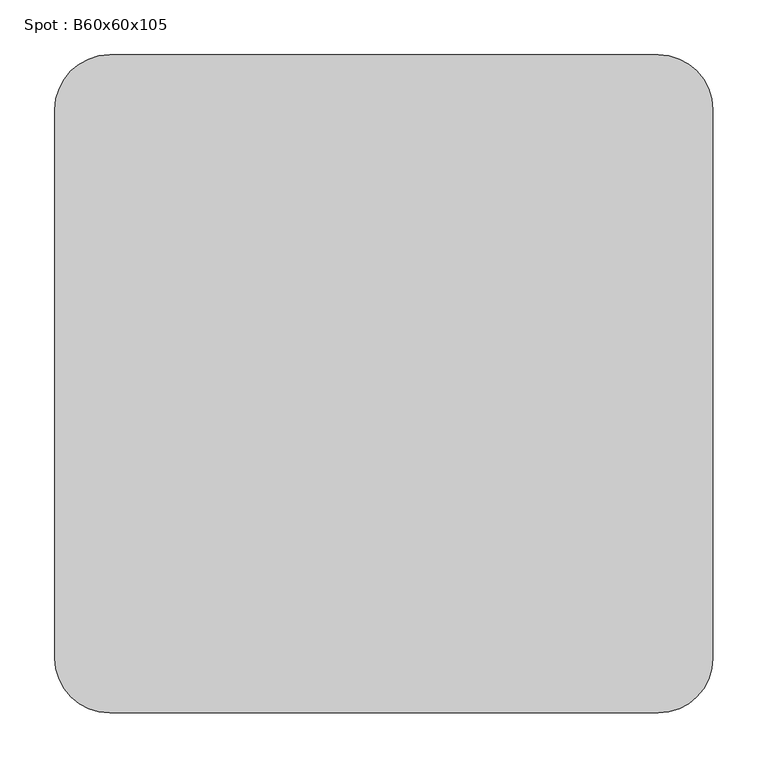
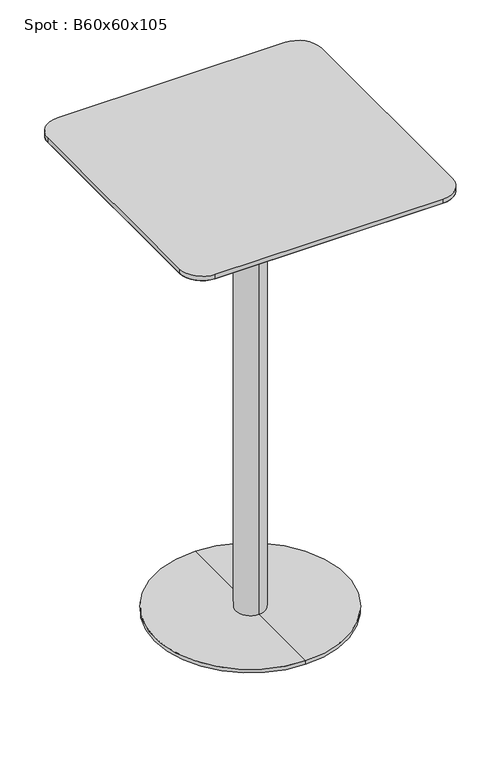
"""IFC4 building model written with IfcOpenShell, lengths in millimetres: furniture geometry, Spot : B60x60x105."""

from ifc_helpers import new_model, si_unit, point, frame, frame_2d, origin, place, context, project, spatial, polyline, circle_curve, trimmed, segment, composite_curve, outline, extrude, source, transform, mapped, element, save
from ifc_brep_helpers import plane_surface, cylinder_surface, revolved_surface, advanced_brep


def spot_b60x60x105_59c6a68b(model_context):
    return source(origin(), model_context, "Body", "SolidModel", [
        advanced_brep(
        [(-250.0, -250.0, 1028.0), (-250.0, 250.0, 1028.0), (250.0, 250.0, 1028.0), (250.0, -250.0, 1028.0), (-300.0, -250.0, 1040.0), (-250.0, -300.0, 1040.0), (250.0, -300.0, 1040.0), (300.0, -250.0, 1040.0), (300.0, 250.0, 1040.0), (250.0, 300.0, 1040.0), (-250.0, 300.0, 1040.0), (-300.0, 250.0, 1040.0)],
        [
            (0, 1),
            (1, 2),
            (2, 3),
            (3, 0),
            (4, 5, circle_curve(frame((-250.0, -250.0, 1040.0), z_axis=(0.0, 0.0, 1.0), x_axis=(0.0, -1.0, 0.0)), 50.0)),
            (5, 6),
            (6, 7, circle_curve(frame((250.0, -250.0, 1040.0), z_axis=(0.0, 0.0, 1.0), x_axis=(1.0, 0.0, 0.0)), 50.0)),
            (7, 8),
            (8, 9, circle_curve(frame((250.0, 250.0, 1040.0), z_axis=(0.0, 0.0, 1.0), x_axis=(0.0, 1.0, 0.0)), 50.0)),
            (9, 10),
            (10, 11, circle_curve(frame((-250.0, 250.0, 1040.0), z_axis=(0.0, 0.0, 1.0), x_axis=(-1.0, 0.0, 0.0)), 50.0)),
            (11, 4),
            (4, 0),
            (0, 5),
            (3, 6),
            (3, 7),
            (2, 8),
            (2, 9),
            (1, 10),
            (1, 11),
        ],
        [
            plane_surface(frame((0.0, 0.0, 1028.0), z_axis=(0.0, 0.0, -1.0), x_axis=(-1.0, 0.0, 0.0))),
            plane_surface(frame((0.0, 0.0, 1040.0), z_axis=(0.0, 0.0, 1.0), x_axis=(-1.0, 0.0, 0.0))),
            revolved_surface(polyline([(-250.0, -250.0, 1028.0), (-250.0, -300.0, 1040.0)]), (-250.0, -250.0, 1028.0), (0.0, 0.0, 1.0)),
            plane_surface(frame((0.0, -300.0, 1040.0), z_axis=(0.0, -0.23337295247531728, -0.9723873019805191), x_axis=(-1.0, 0.0, 0.0))),
            revolved_surface(polyline([(250.0, -250.0, 1028.0), (300.0, -250.0, 1040.0)]), (250.0, -250.0, 1028.0), (0.0, 0.0, 1.0)),
            plane_surface(frame((300.0, 0.0, 1040.0), z_axis=(0.23337295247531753, 0.0, -0.9723873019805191), x_axis=(0.0, -1.0, 0.0))),
            revolved_surface(polyline([(250.0, 250.0, 1028.0), (250.0, 300.0, 1040.0)]), (250.0, 250.0, 1028.0), (0.0, 0.0, 1.0)),
            plane_surface(frame((0.0, 300.0, 1040.0), z_axis=(0.0, 0.2333729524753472, -0.9723873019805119), x_axis=(1.0, 0.0, 0.0))),
            revolved_surface(polyline([(-250.0, 250.0, 1028.0), (-300.0, 250.0, 1040.0)]), (-250.0, 250.0, 1028.0), (0.0, 0.0, 1.0)),
            plane_surface(frame((-300.0, 0.0, 1040.0), z_axis=(-0.233372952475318, 0.0, -0.972387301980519), x_axis=(0.0, 1.0, 0.0))),
        ],
        [
            (0, [[1, 2, 3, 4]]),
            (1, [[5, 6, 7, 8, 9, 10, 11, 12]]),
            (2, [[-5, 13, 14]]),
            (3, [[-6, -14, -4, 15]]),
            (4, [[-7, -15, 16]]),
            (5, [[-8, -16, -3, 17]]),
            (6, [[-9, -17, 18]]),
            (7, [[-10, -18, -2, 19]]),
            (8, [[-11, -19, 20]]),
            (9, [[-12, -20, -1, -13]]),
        ],
    ),
        extrude(outline(composite_curve([segment(trimmed(circle_curve(frame_2d((250.0, 250.0)), 50.0), [point((250.0, 300.0))], [point((300.0, 250.0))], False, "CARTESIAN"), True, "CONTINUOUS"), segment(polyline([(300.0, 250.0), (300.0, -250.0)]), True, "CONTINUOUS"), segment(trimmed(circle_curve(frame_2d((250.0, -250.0)), 50.0), [point((300.0, -250.0))], [point((250.0, -300.0))], False, "CARTESIAN"), True, "CONTINUOUS"), segment(polyline([(250.0, -300.0), (-250.0, -300.0)]), True, "CONTINUOUS"), segment(trimmed(circle_curve(frame_2d((-250.0, -250.0)), 50.0), [point((-250.0, -300.0))], [point((-300.0, -250.0))], False, "CARTESIAN"), True, "CONTINUOUS"), segment(polyline([(-300.0, -250.0), (-300.0, 250.0)]), True, "CONTINUOUS"), segment(trimmed(circle_curve(frame_2d((-250.0, 250.0)), 50.0), [point((-300.0, 250.0))], [point((-250.0, 300.0))], False, "CARTESIAN"), True, "CONTINUOUS"), segment(polyline([(-250.0, 300.0), (250.0, 300.0)]), True, "CONTINUOUS")], self_intersect=False)), frame((0.0, 0.0, 1040.0), z_axis=(0.0, 0.0, 1.0), x_axis=(1.0, 0.0, 0.0)), (0.0, 0.0, 1.0), 10.0),
        advanced_brep(
        [(0.0, 32.0, 10.0), (0.0, -32.0, 10.0), (0.0, -32.0, 997.406916), (0.0, 32.0, 997.406916), (0.0, 210.0, 10.0), (0.0, -210.0, 10.0), (0.0, 210.0, 2.0), (0.0, -210.0, 2.0), (0.0, 0.0, 2.0), (0.0, 150.0, 1028.0), (0.0, -150.0, 1028.0), (0.0, 0.0, 1028.0), (0.0, 150.0, 1016.7213673), (0.0, -150.0, 1016.7213673)],
        [
            (0, 1, circle_curve(frame((0.0, 0.0, 10.0), z_axis=(0.0, 0.0, 1.0), x_axis=(0.0, -1.0, 0.0)), 32.0)),
            (1, 2),
            (2, 3, circle_curve(frame((0.0, 0.0, 997.406916), z_axis=(0.0, 0.0, -1.0), x_axis=(0.0, -1.0, 0.0)), 32.0)),
            (3, 0),
            (1, 0, circle_curve(frame((0.0, 0.0, 10.0), z_axis=(0.0, 0.0, 1.0), x_axis=(0.0, -1.0, 0.0)), 32.0)),
            (3, 2, circle_curve(frame((0.0, 0.0, 997.406916), z_axis=(0.0, 0.0, -1.0), x_axis=(0.0, -1.0, 0.0)), 32.0)),
            (4, 5, circle_curve(frame((0.0, 0.0, 10.0), z_axis=(0.0, 0.0, 1.0), x_axis=(0.0, -1.0, 0.0)), 210.0)),
            (5, 1),
            (0, 4),
            (5, 4, circle_curve(frame((0.0, 0.0, 10.0), z_axis=(0.0, 0.0, 1.0), x_axis=(0.0, -1.0, 0.0)), 210.0)),
            (6, 7, circle_curve(frame((0.0, 0.0, 2.0), z_axis=(0.0, 0.0, 1.0), x_axis=(0.0, -1.0, 0.0)), 210.0)),
            (7, 5),
            (4, 6),
            (7, 6, circle_curve(frame((0.0, 0.0, 2.0), z_axis=(0.0, 0.0, 1.0), x_axis=(0.0, -1.0, 0.0)), 210.0)),
            (8, 7),
            (6, 8),
            (9, 10, circle_curve(frame((0.0, 0.0, 1028.0), z_axis=(0.0, 0.0, 1.0), x_axis=(0.0, -1.0, 0.0)), 150.0)),
            (10, 11),
            (11, 9),
            (10, 9, circle_curve(frame((0.0, 0.0, 1028.0), z_axis=(0.0, 0.0, 1.0), x_axis=(0.0, -1.0, 0.0)), 150.0)),
            (12, 13, circle_curve(frame((0.0, 0.0, 1016.7213673), z_axis=(0.0, 0.0, 1.0), x_axis=(0.0, -1.0, 0.0)), 150.0)),
            (13, 10),
            (9, 12),
            (13, 12, circle_curve(frame((0.0, 0.0, 1016.7213673), z_axis=(0.0, 0.0, 1.0), x_axis=(0.0, -1.0, 0.0)), 150.0)),
            (2, 13),
            (12, 3),
        ],
        [
            cylinder_surface(frame((0.0, 0.0, 1390.0), z_axis=(0.0, 0.0, -1.0), x_axis=(0.0, -1.0, 0.0)), 32.0),
            plane_surface(frame((0.0, 0.0, 10.0), z_axis=(0.0, 0.0, 1.0), x_axis=(0.0, -1.0, 0.0))),
            cylinder_surface(frame((0.0, 0.0, 1390.0), z_axis=(0.0, 0.0, -1.0), x_axis=(0.0, -1.0, 0.0)), 210.0),
            plane_surface(frame((0.0, 0.0, 2.0), z_axis=(0.0, 0.0, -1.0), x_axis=(0.0, -1.0, 0.0))),
            plane_surface(frame((0.0, 0.0, 1028.0), z_axis=(0.0, 0.0, 1.0), x_axis=(0.0, -1.0, 0.0))),
            cylinder_surface(frame((0.0, 0.0, 1390.0), z_axis=(0.0, 0.0, -1.0), x_axis=(0.0, -1.0, 0.0)), 150.0),
            revolved_surface(polyline([(0.0, -150.0, 1016.7213673), (0.0, -32.0, 997.406916)]), (0.0, 0.0, 1390.0), (0.0, 0.0, -1.0)),
        ],
        [
            (0, [[1, 2, 3, 4]]),
            (0, [[5, -4, 6, -2]]),
            (1, [[7, 8, -1, 9]]),
            (1, [[10, -9, -5, -8]]),
            (2, [[11, 12, -7, 13]]),
            (2, [[14, -13, -10, -12]]),
            (3, [[15, -11, 16]]),
            (3, [[-16, -14, -15]]),
            (4, [[17, 18, 19]]),
            (4, [[20, -19, -18]]),
            (5, [[21, 22, -17, 23]]),
            (5, [[24, -23, -20, -22]]),
            (6, [[-3, 25, -21, 26]]),
            (6, [[-6, -26, -24, -25]]),
        ],
    ),
    ])


if __name__ == "__main__":
    model = new_model("IFC4")
    model_context = context("Model", 3, world=origin())
    ifc_project = project(units=[si_unit("LENGTHUNIT", "METRE", prefix="MILLI")], contexts=[model_context])
    site = spatial("IfcSite", under=ifc_project)
    building = spatial("IfcBuilding", under=site)
    placement = place(None, origin())
    spot_b60x60x105_shape = spot_b60x60x105_59c6a68b(model_context)
    element("IfcFurniture", 1, ObjectType="Spot : B60x60x105", at=placement, inside=building, context=model_context, shape_type="MappedRepresentation", body=[
        mapped(spot_b60x60x105_shape, transform((0.0, 0.0, 0.0), x_axis=(1.0, 0.0, 0.0), y_axis=(0.0, 1.0, 0.0), z_axis=(0.0, 0.0, 1.0))),
    ])
    save(model, "model.ifc")
